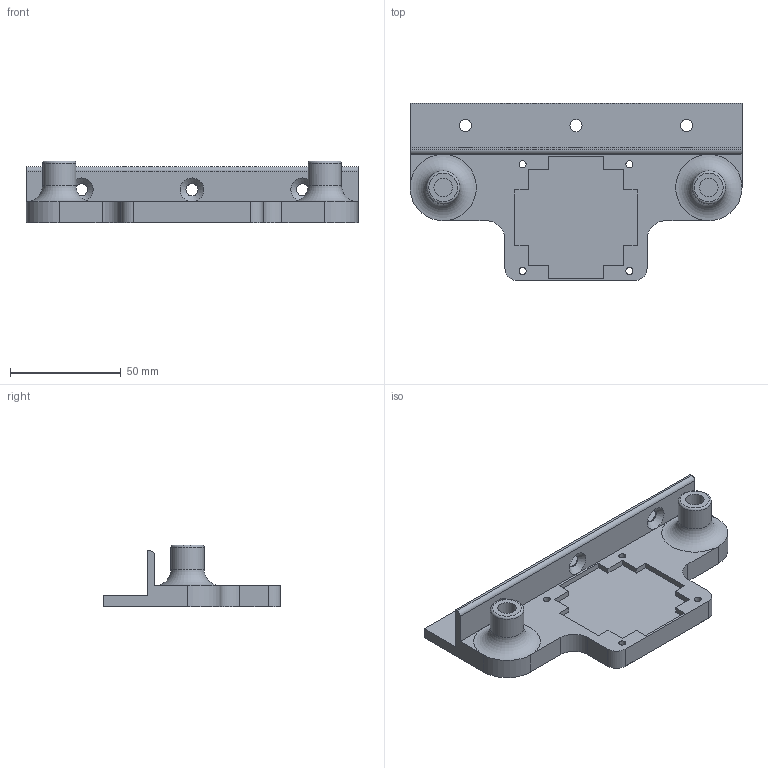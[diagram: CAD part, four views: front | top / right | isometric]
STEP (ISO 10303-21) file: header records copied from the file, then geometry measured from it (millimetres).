
FILE_DESCRIPTION(/* description */ (''),/* implementation_level */ '2;1');
FILE_NAME(/* name */ 'C:/Users/longl/OneDrive/Documents/OpenBox Builds/Parts/Z-Axis/Z Axis Bottom Bracket/Z Axis Bottom Bracket.step',/* time_stamp */ '2021-08-11T16:28:11-04:00',/* author */ (''),/* organization */ (''),/* preprocessor_version */ 'ST-DEVELOPER v18.1',/* originating_system */ 'Autodesk Translation Framework v10.9.0.1377',/* authorisation */ '');
FILE_SCHEMA (('AUTOMOTIVE_DESIGN { 1 0 10303 214 3 1 1 }'));
Length unit declared in the file: millimetre
Products named in the file (1): Z Axis Bottom Bracket
Bounding box: 150 x 80 x 28 mm (x, y, z)
Volume: 82650.7 mm3; surface area: 31311.6 mm2
Topology: 1 solids, 1 shells, 124 faces, 304 edges, 189 vertices
Faces by surface type: plane 93, cylinder 21, cone 6, torus 4
Full cylindrical faces by diameter (mm): 3.2 x4, 5.5 x6, 8.35 x2, 15 x2
Entity records: 3652 total; most frequent: CARTESIAN_POINT 618, DIRECTION 613, ORIENTED_EDGE 608, EDGE_CURVE 304, LINE 245, VECTOR 245, VERTEX_POINT 189, AXIS2_PLACEMENT_3D 184
